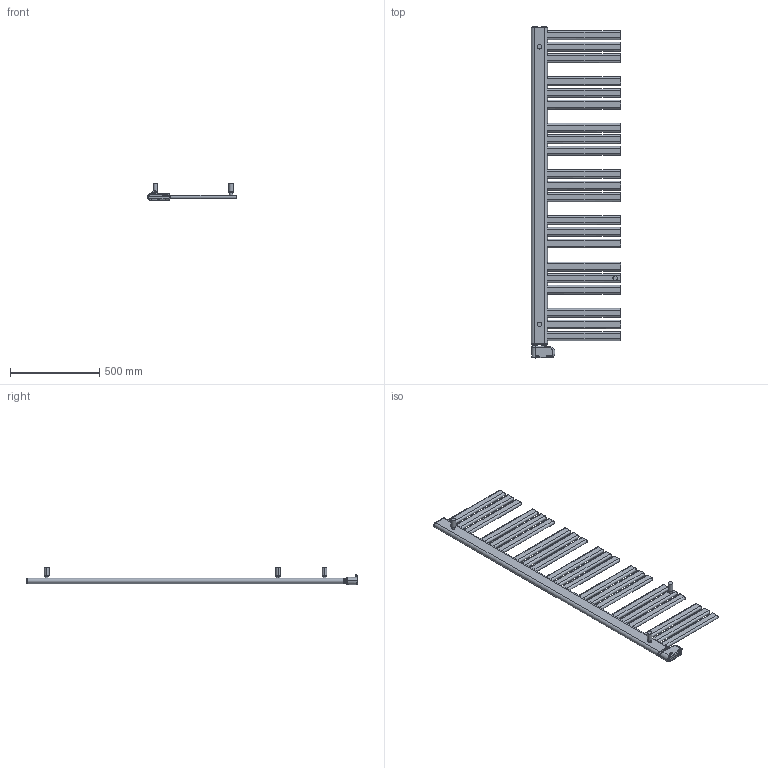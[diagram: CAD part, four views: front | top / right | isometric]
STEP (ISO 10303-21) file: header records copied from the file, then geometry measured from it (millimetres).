
FILE_DESCRIPTION((''),'2;1');
FILE_NAME('3581776100023_3D_SITO_ASM','2023-01-24T12:24:40',('PC132'),(''),'CREO PARAMETRIC BY PTC INC, 2022124','CREO PARAMETRIC BY PTC INC, 2022124','');
FILE_SCHEMA(('AUTOMOTIVE_DESIGN { 1 0 10303 214 1 1 1 1 }'));
Length unit declared in the file: millimetre
Products named in the file (6): 3581776100023_3D_SITO; 1010181240001; 1035270000037_FRONT; 1035270000037_BACK; 1035270000021_ASM; 3581776100023_3D_SITO_ASM
Assembly tree (7 placements, depth 3):
  3581776100023_3D_SITO_ASM
    3581776100023_3D_SITO
    1010181240001  x3
    1035270000021_ASM
      1035270000037_FRONT
      1035270000037_BACK
Bounding box: 500 x 1864.4 x 96 mm (x, y, z)
Volume: 12737465.8 mm3; surface area: 1518109 mm2
Topology: 9 solids, 10 shells, 550 faces, 1298 edges, 811 vertices
Faces by surface type: cylinder 196, plane 180, torus 82, bspline 51, cone 24, sphere 17
Entity records: 36757 total; most frequent: CARTESIAN_POINT 18053, DIRECTION 2501, ORIENTED_EDGE 2172, PRESENTATION_STYLE_ASSIGNMENT 1204, STYLED_ITEM 1200, CURVE_STYLE 1195, EDGE_CURVE 1086, AXIS2_PLACEMENT_3D 983
